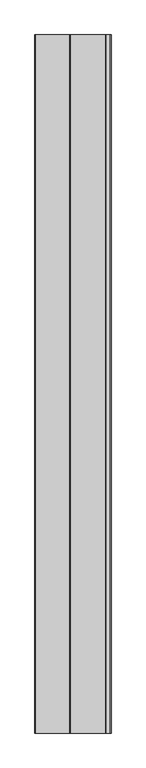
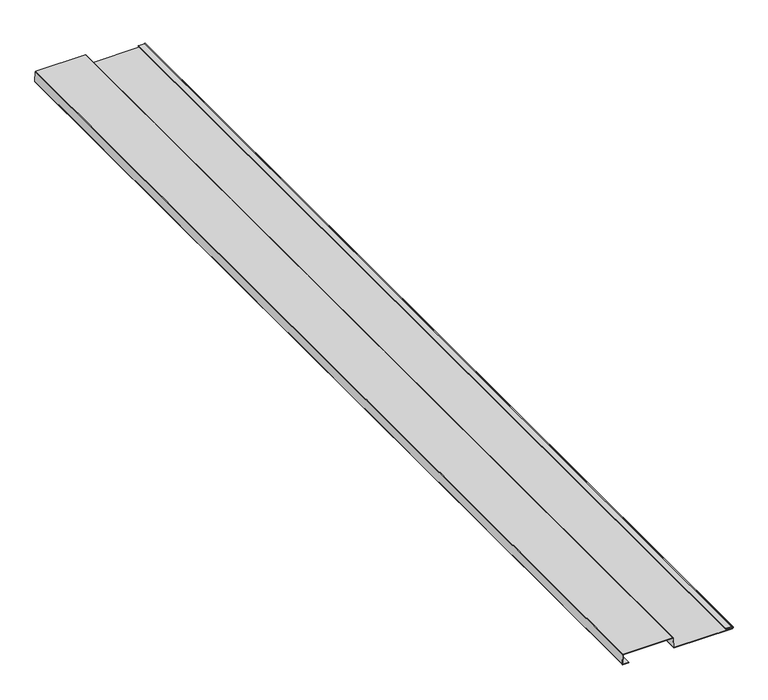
"""IFC4 building model written with IfcOpenShell, lengths in millimetres: proxy geometry."""

from ifc_helpers import new_model, si_unit, frame, origin, place, context, project, spatial, polyline, circle_curve, source, transform, mapped, element, save
from ifc_brep_helpers import plane_surface, cylinder_surface, revolved_surface, advanced_brep


def generic_models_d0faf110(model_context):
    return source(origin(), model_context, "Body", "AdvancedBrep", [
        advanced_brep(
        [(-153.6608751, -3048.0, 0.0), (-136.0784108, -3048.0, 0.0), (-136.0792232, -3048.0, 0.89916), (-153.5755751, -3048.0, 0.89916), (-154.2687525, -3048.0, 1.4422952), (-152.7735515, -3048.0, 30.487557), (-152.015216, -3048.0, 31.047064), (-3.4045174, -3048.0, 31.194252), (-2.7952807, -3048.0, 30.6172035), (-1.2128902, -3048.0, 0.826278), (0.4305042, -3048.0, -0.7311206), (173.8542343, -3048.0, -0.5803088), (173.7103875, -3048.0, 5.9041722), (155.7199098, -3048.0, 5.9032241), (155.7211228, -3048.0, 3.3660541), (167.3999667, -3048.0, 3.3487045), (167.3991543, -3048.0, 4.2478641), (155.7488621, -3048.0, 4.2373385), (155.7199572, -3048.0, 5.0040642), (173.5820248, -3048.0, 5.0050055), (173.8533396, -3048.0, 0.3188507), (0.4501034, -3048.0, 0.1463046), (-0.3149842, -3048.0, 0.8737475), (-1.8895768, -3048.0, 30.6578786), (-3.4054079, -3048.0, 32.0934116), (-151.9757723, -3048.0, 31.9462635), (-153.6715225, -3048.0, 30.533783), (-155.1643574, -3048.0, 1.5344848), (-153.6608751, 0.0, 0.0), (-155.1643574, 0.0, 1.5344848), (-153.6715225, 0.0, 30.533783), (-151.9757723, 0.0, 31.9462635), (-3.4054079, 0.0, 32.0934116), (-1.9035845, 0.0, 30.6709348), (-0.3149841, 0.0, 0.8737475), (0.43588, 0.0, 0.1621747), (173.8533396, 0.0, 0.3188508), (173.5820248, 0.0, 5.0050055), (155.7199572, 0.0, 5.0040641), (155.7203163, 0.0, 4.2528314), (167.3991543, 0.0, 4.2478641), (167.3999667, 0.0, 3.3487045), (155.7496744, 0.0, 3.3381789), (155.7199098, 0.0, 5.9032241), (173.7103875, 0.0, 5.9041722), (173.8542343, 0.0, -0.5803088), (0.4509981, 0.0, -0.752855), (-1.2128902, 0.0, 0.826278), (-2.7874829, 0.0, 30.6104091), (-3.4045174, 0.0, 31.194252), (-152.015216, 0.0, 31.047064), (-152.7735515, 0.0, 30.487557), (-154.2687525, 0.0, 1.4422952), (-153.5755751, 0.0, 0.89916), (-136.0792232, 0.0, 0.89916), (-136.0784108, 0.0, 0.0)],
        [
            (0, 1),
            (1, 2),
            (2, 3),
            (3, 4, circle_curve(frame((-153.6622325, -3048.0, 1.5024655), z_axis=(0.0, 1.0, 0.0), x_axis=(1.0, 0.0, 0.0)), 0.6094973)),
            (4, 5),
            (5, 6, circle_curve(frame((-152.1648602, -3048.0, 30.4562226), z_axis=(0.0, 1.0, 0.0), x_axis=(1.0, 0.0, 0.0)), 0.6094973)),
            (6, 7),
            (7, 8, circle_curve(frame((-3.4039137, -3048.0, 30.584755), z_axis=(0.0, 1.0, 0.0), x_axis=(1.0, 0.0, 0.0)), 0.6094973)),
            (8, 9),
            (9, 10, circle_curve(frame((0.4290187, -3048.0, 0.9130806), z_axis=(0.0, -1.0, 0.0), x_axis=(1.0, 0.0, 0.0)), 1.6442018)),
            (10, 11),
            (11, 12, circle_curve(frame((173.8510066, -3048.0, 2.6634556), z_axis=(0.0, -1.0, 0.0), x_axis=(1.0, 0.0, 0.0)), 3.243766)),
            (12, 13),
            (13, 14, circle_curve(frame((155.7199766, -3048.0, 4.6346388), z_axis=(0.0, -1.0, 0.0), x_axis=(1.0, 0.0, 0.0)), 1.2685853)),
            (14, 15),
            (15, 16),
            (16, 17),
            (17, 18, circle_curve(frame((155.719977, -3048.0, 4.6284477), z_axis=(0.0, 1.0, 0.0), x_axis=(1.0, 0.0, 0.0)), 0.3756165)),
            (18, 19),
            (19, 20, circle_curve(frame((173.8510004, -3048.0, 2.6696469), z_axis=(0.0, 1.0, 0.0), x_axis=(1.0, 0.0, 0.0)), 2.3507973)),
            (20, 21),
            (21, 22, circle_curve(frame((0.4352013, -3048.0, 0.9134074), z_axis=(0.0, 1.0, 0.0), x_axis=(1.0, 0.0, 0.0)), 0.751233)),
            (22, 23),
            (23, 24, circle_curve(frame((-3.4039198, -3048.0, 30.5909463), z_axis=(0.0, -1.0, 0.0), x_axis=(1.0, 0.0, 0.0)), 1.5024661)),
            (24, 25),
            (25, 26, circle_curve(frame((-152.1710432, -3048.0, 30.4565408), z_axis=(0.0, -1.0, 0.0), x_axis=(1.0, 0.0, 0.0)), 1.5024661)),
            (26, 27),
            (27, 0, circle_curve(frame((-153.6622325, -3048.0, 1.5024655), z_axis=(0.0, -1.0, 0.0), x_axis=(1.0, 0.0, 0.0)), 1.5024661)),
            (28, 29, circle_curve(frame((-153.6622325, 0.0, 1.5024655), z_axis=(0.0, 1.0, 0.0), x_axis=(1.0, 0.0, 0.0)), 1.5024661)),
            (29, 30),
            (30, 31, circle_curve(frame((-152.1710432, 0.0, 30.4565408), z_axis=(0.0, 1.0, 0.0), x_axis=(1.0, 0.0, 0.0)), 1.5024661)),
            (31, 32),
            (32, 33, circle_curve(frame((-3.4039198, 0.0, 30.5909463), z_axis=(0.0, 1.0, 0.0), x_axis=(1.0, 0.0, 0.0)), 1.5024661)),
            (33, 34),
            (34, 35, circle_curve(frame((0.4352013, 0.0, 0.9134074), z_axis=(0.0, -1.0, 0.0), x_axis=(1.0, 0.0, 0.0)), 0.751233)),
            (35, 36),
            (36, 37, circle_curve(frame((173.8510004, 0.0, 2.6696469), z_axis=(0.0, -1.0, 0.0), x_axis=(1.0, 0.0, 0.0)), 2.3507973)),
            (37, 38),
            (38, 39, circle_curve(frame((155.719977, 0.0, 4.6284477), z_axis=(0.0, -1.0, 0.0), x_axis=(1.0, 0.0, 0.0)), 0.3756165)),
            (39, 40),
            (40, 41),
            (41, 42),
            (42, 43, circle_curve(frame((155.7199766, 0.0, 4.6346388), z_axis=(0.0, 1.0, 0.0), x_axis=(1.0, 0.0, 0.0)), 1.2685853)),
            (43, 44),
            (44, 45, circle_curve(frame((173.8510066, 0.0, 2.6634556), z_axis=(0.0, 1.0, 0.0), x_axis=(1.0, 0.0, 0.0)), 3.243766)),
            (45, 46),
            (46, 47, circle_curve(frame((0.4290187, 0.0, 0.9130806), z_axis=(0.0, 1.0, 0.0), x_axis=(1.0, 0.0, 0.0)), 1.6442018)),
            (47, 48),
            (48, 49, circle_curve(frame((-3.4039137, 0.0, 30.584755), z_axis=(0.0, -1.0, 0.0), x_axis=(1.0, 0.0, 0.0)), 0.6094973)),
            (49, 50),
            (50, 51, circle_curve(frame((-152.1648602, 0.0, 30.4562226), z_axis=(0.0, -1.0, 0.0), x_axis=(1.0, 0.0, 0.0)), 0.6094973)),
            (51, 52),
            (52, 53, circle_curve(frame((-153.6622325, 0.0, 1.5024655), z_axis=(0.0, -1.0, 0.0), x_axis=(1.0, 0.0, 0.0)), 0.6094973)),
            (53, 54),
            (54, 55),
            (55, 28),
            (0, 28),
            (55, 1),
            (54, 2),
            (53, 3),
            (52, 4),
            (51, 5),
            (50, 6),
            (49, 7),
            (48, 8),
            (47, 9),
            (46, 10),
            (45, 11),
            (44, 12),
            (43, 13),
            (42, 14),
            (41, 15),
            (40, 16),
            (39, 17),
            (38, 18),
            (37, 19),
            (36, 20),
            (35, 21),
            (34, 22),
            (33, 23),
            (32, 24),
            (31, 25),
            (30, 26),
            (29, 27),
        ],
        [
            plane_surface(frame((-136.0784108, -3048.0, 0.0), z_axis=(0.0, -1.0, 0.0), x_axis=(1.0, 0.0, 0.0))),
            plane_surface(frame((-136.0784108, 0.0, 0.0), z_axis=(0.0, 1.0, 0.0), x_axis=(-1.0, 0.0, 0.0))),
            plane_surface(frame((-153.6608751, -3048.0, 0.0), z_axis=(0.0, 0.0, -1.0), x_axis=(0.0, 1.0, 0.0))),
            plane_surface(frame((-136.0784108, -3048.0, 0.0), z_axis=(0.9999995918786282, 0.0, 0.0009034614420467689), x_axis=(0.0, 1.0, 0.0))),
            plane_surface(frame((-136.0792232, -3048.0, 0.89916), z_axis=(0.0, 0.0, 1.0), x_axis=(0.0, 1.0, 0.0))),
            revolved_surface(polyline([(-153.0527352, 0.0, 1.5024655), (-153.0527352, -3048.0, 1.5024655)]), (-153.6622325, 0.0, 1.5024655), (0.0, 1.0, 0.0)),
            plane_surface(frame((-154.2687525, -3048.0, 1.4422952), z_axis=(0.998677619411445, 0.0, -0.05141023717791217), x_axis=(0.0, 1.0, 0.0))),
            revolved_surface(polyline([(-151.5553629, 0.0, 30.4562226), (-151.5553629, -3048.0, 30.4562226)]), (-152.1648602, 0.0, 30.4562226), (0.0, 1.0, 0.0)),
            plane_surface(frame((-152.015216, -3048.0, 31.047064), z_axis=(0.0009904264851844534, 0.0, -0.9999995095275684), x_axis=(0.0, 1.0, 0.0))),
            revolved_surface(polyline([(-2.7944164, 0.0, 30.584755), (-2.7944164, -3048.0, 30.584755)]), (-3.4039137, 0.0, 30.584755), (0.0, 1.0, 0.0)),
            plane_surface(frame((-2.7874829, -3048.0, 30.6104091), z_axis=(-0.9986054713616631, 0.0, -0.05279311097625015), x_axis=(0.0, 1.0, 0.0))),
            cylinder_surface(frame((0.4290187, 0.0, 0.9130806), z_axis=(0.0, -1.0, 0.0), x_axis=(1.0, 0.0, 0.0)), 1.6442018),
            plane_surface(frame((0.4509981, -3048.0, -0.752855), z_axis=(0.0009950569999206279, 0.0, -0.9999995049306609), x_axis=(0.0, 1.0, 0.0))),
            cylinder_surface(frame((173.8510066, 0.0, 2.6634556), z_axis=(0.0, -1.0, 0.0), x_axis=(1.0, 0.0, 0.0)), 3.243766),
            plane_surface(frame((173.7103875, -3048.0, 5.9041722), z_axis=(-5.270249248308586e-05, 0.0, 0.9999999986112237), x_axis=(0.0, 1.0, 0.0))),
            cylinder_surface(frame((155.7199766, 0.0, 4.6346388), z_axis=(0.0, -1.0, 0.0), x_axis=(1.0, 0.0, 0.0)), 1.2685853),
            plane_surface(frame((155.7496744, -3048.0, 3.3381789), z_axis=(0.0009034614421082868, 0.0, -0.9999995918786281), x_axis=(0.0, 1.0, 0.0))),
            plane_surface(frame((167.3999667, -3048.0, 3.3487045), z_axis=(0.9999995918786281, 0.0, 0.0009034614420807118), x_axis=(0.0, 1.0, 0.0))),
            plane_surface(frame((167.3991543, -3048.0, 4.2478641), z_axis=(-0.0009034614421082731, 0.0, 0.9999995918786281), x_axis=(0.0, 1.0, 0.0))),
            revolved_surface(polyline([(156.0955935, 0.0, 4.6284477), (156.0955935, -3048.0, 4.6284477)]), (155.719977, 0.0, 4.6284477), (0.0, 1.0, 0.0)),
            plane_surface(frame((155.7199572, -3048.0, 5.0040641), z_axis=(5.270249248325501e-05, 0.0, -0.9999999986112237), x_axis=(0.0, 1.0, 0.0))),
            revolved_surface(polyline([(176.20179770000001, 0.0, 2.6696469), (176.20179770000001, -3048.0, 2.6696469)]), (173.8510004, 0.0, 2.6696469), (0.0, 1.0, 0.0)),
            plane_surface(frame((173.8533396, -3048.0, 0.3188508), z_axis=(-0.00099505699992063, 0.0, 0.9999995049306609), x_axis=(0.0, 1.0, 0.0))),
            revolved_surface(polyline([(1.1864343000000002, 0.0, 0.9134074), (1.1864343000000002, -3048.0, 0.9134074)]), (0.4352013, 0.0, 0.9134074), (0.0, 1.0, 0.0)),
            plane_surface(frame((-0.3149841, -3048.0, 0.8737475), z_axis=(0.9986054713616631, 0.0, 0.05279311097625), x_axis=(0.0, 1.0, 0.0))),
            cylinder_surface(frame((-3.4039198, 0.0, 30.5909463), z_axis=(0.0, -1.0, 0.0), x_axis=(1.0, 0.0, 0.0)), 1.5024661),
            plane_surface(frame((-3.4054079, -3048.0, 32.0934116), z_axis=(-0.0009904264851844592, 0.0, 0.9999995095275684), x_axis=(0.0, 1.0, 0.0))),
            cylinder_surface(frame((-152.1710432, 0.0, 30.4565408), z_axis=(0.0, -1.0, 0.0), x_axis=(1.0, 0.0, 0.0)), 1.5024661),
            plane_surface(frame((-153.6715225, -3048.0, 30.533783), z_axis=(-0.998677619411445, 0.0, 0.05141023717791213), x_axis=(0.0, 1.0, 0.0))),
            cylinder_surface(frame((-153.6622325, 0.0, 1.5024655), z_axis=(0.0, -1.0, 0.0), x_axis=(1.0, 0.0, 0.0)), 1.5024661),
        ],
        [
            (0, [[1, 2, 3, 4, 5, 6, 7, 8, 9, 10, 11, 12, 13, 14, 15, 16, 17, 18, 19, 20, 21, 22, 23, 24, 25, 26, 27, 28]]),
            (1, [[29, 30, 31, 32, 33, 34, 35, 36, 37, 38, 39, 40, 41, 42, 43, 44, 45, 46, 47, 48, 49, 50, 51, 52, 53, 54, 55, 56]]),
            (2, [[-1, 57, -56, 58]]),
            (3, [[-2, -58, -55, 59]]),
            (4, [[-3, -59, -54, 60]]),
            (5, [[-4, -60, -53, 61]]),
            (6, [[-5, -61, -52, 62]]),
            (7, [[-6, -62, -51, 63]]),
            (8, [[-7, -63, -50, 64]]),
            (9, [[-8, -64, -49, 65]]),
            (10, [[-9, -65, -48, 66]]),
            (11, [[-10, -66, -47, 67]]),
            (12, [[-11, -67, -46, 68]]),
            (13, [[-12, -68, -45, 69]]),
            (14, [[-13, -69, -44, 70]]),
            (15, [[-14, -70, -43, 71]]),
            (16, [[-15, -71, -42, 72]]),
            (17, [[-16, -72, -41, 73]]),
            (18, [[-17, -73, -40, 74]]),
            (19, [[-18, -74, -39, 75]]),
            (20, [[-19, -75, -38, 76]]),
            (21, [[-20, -76, -37, 77]]),
            (22, [[-21, -77, -36, 78]]),
            (23, [[-22, -78, -35, 79]]),
            (24, [[-23, -79, -34, 80]]),
            (25, [[-24, -80, -33, 81]]),
            (26, [[-25, -81, -32, 82]]),
            (27, [[-26, -82, -31, 83]]),
            (28, [[-27, -83, -30, 84]]),
            (29, [[-28, -84, -29, -57]]),
        ],
    ),
    ])


if __name__ == "__main__":
    model = new_model("IFC4")
    model_context = context("Model", 3, world=origin())
    ifc_project = project(units=[si_unit("LENGTHUNIT", "METRE", prefix="MILLI")], contexts=[model_context])
    site = spatial("IfcSite", under=ifc_project)
    building = spatial("IfcBuilding", under=site)
    placement = place(None, origin())
    generic_models_shape = generic_models_d0faf110(model_context)
    element("IfcBuildingElementProxy", 1, Name="Flex-Series_1.2FX30-12c_Panel_AEP_Span : 12\" Flex Series 1.2FX30-12c - 20GA", ObjectType="Flex-Series_1.2FX30-12c_Panel_AEP_Span : 12\" Flex Series 1.2FX30-12c - 20GA", at=placement, inside=building, context=model_context, shape_type="MappedRepresentation", body=[
        mapped(generic_models_shape, transform((0.0, 0.0, 0.0), x_axis=(1.0, 0.0, 0.0), y_axis=(0.0, 1.0, 0.0), z_axis=(0.0, 0.0, 1.0))),
    ])
    save(model, "model.ifc")
